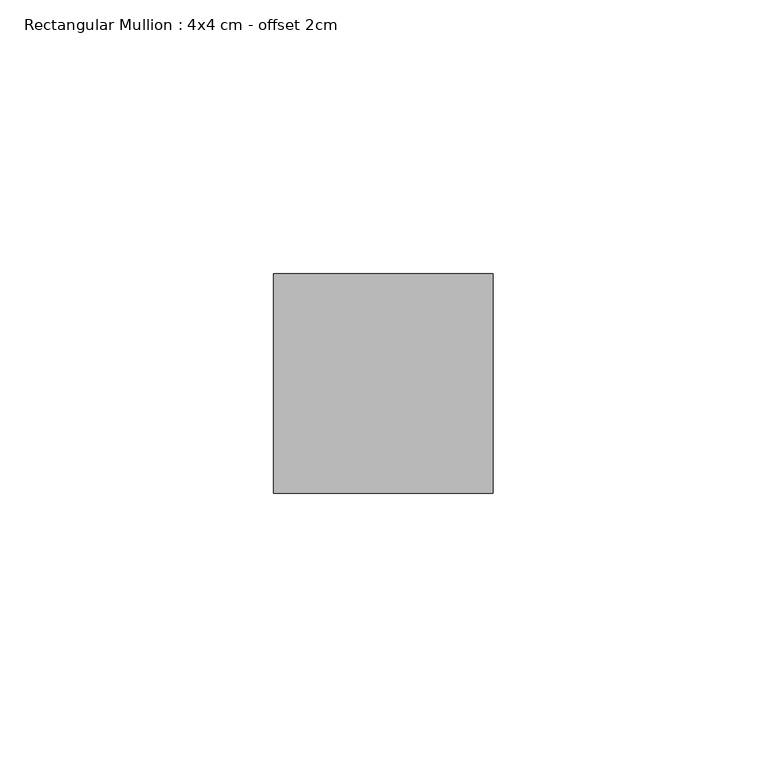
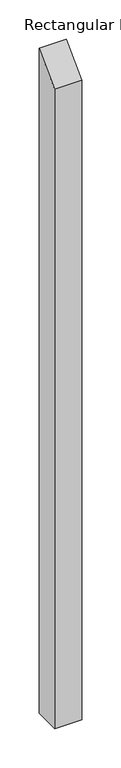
"""IFC4 building model written with IfcOpenShell, lengths in millimetres: member geometry, Rectangular Mullion : 4x4 cm - offset 2cm."""

import ifcopenshell
import ifcopenshell.guid

model = None  # the IFC model being written
_history = None  # IfcOwnerHistory: only IFC2X3 demands one
_inside = {}  # id of a spatial element -> (the spatial element, [elements in it])
_under = {}  # id of a project, library or spatial element -> (it, [spatial elements below it])
_declared = {}  # id of a project -> (the project, [libraries it declares])
_typed = {}  # id of a type object -> (the type object, [elements of that type])
_made_of = {}  # id of a material, layer set ... -> (it, [elements and type objects made of it])


def new_model(schema):
    """Start an empty IFC model of exactly this schema.

    Asked for "IFC4X3", IfcOpenShell would pick the latest addendum, in which some entities
    have other attributes; the version numbers below select the first issue.
    IFC2X3 requires an IfcOwnerHistory on every rooted entity: one is made here for all.
    """
    global model, _history
    if schema == "IFC4X3":
        model = ifcopenshell.file(schema_version=(4, 3, 0, 0))
    else:
        model = ifcopenshell.file(schema=schema)
    _inside.clear()
    _under.clear()
    _declared.clear()
    _typed.clear()
    _made_of.clear()
    _history = None
    if model.schema == "IFC2X3":
        org = make("IfcOrganization", Name="unknown")
        user = make(
            "IfcPersonAndOrganization",
            ThePerson=make("IfcPerson", FamilyName="unknown"),
            TheOrganization=org,
        )
        app = make(
            "IfcApplication",
            ApplicationDeveloper=org,
            Version="unknown",
            ApplicationFullName="unknown",
            ApplicationIdentifier="unknown",
        )
        _history = make(
            "IfcOwnerHistory",
            OwningUser=user,
            OwningApplication=app,
            ChangeAction="ADDED",
            CreationDate=0,
        )
    return model


def make(cls, **values):
    """One entity of the class cls with the attributes given. An attribute that is None is left unset."""
    return model.create_entity(
        cls, **{name: value for name, value in values.items() if value is not None}
    )


def rooted(cls, **values):
    """An entity with a GlobalId (a new one), such as an element, a storey or a relation."""
    return make(cls, GlobalId=ifcopenshell.guid.new(), OwnerHistory=_history, **values)


def si_unit(unit_type, name, prefix=None):
    """IfcSIUnit, for example si_unit("LENGTHUNIT", "METRE", prefix="MILLI")."""
    return make("IfcSIUnit", UnitType=unit_type, Prefix=prefix, Name=name)


def assignment(units):
    """IfcUnitAssignment: the units of a project."""
    return None if units is None else make("IfcUnitAssignment", Units=units)


def point(xyz):
    """IfcCartesianPoint."""
    return None if xyz is None else make("IfcCartesianPoint", Coordinates=xyz)


def direction(xyz):
    """IfcDirection."""
    return None if xyz is None else make("IfcDirection", DirectionRatios=xyz)


def frame(location, z_axis=None, x_axis=None):
    """IfcAxis2Placement3D, a coordinate frame: its origin and axes. An axis left out is left unset."""
    return make(
        "IfcAxis2Placement3D",
        Location=point(location),
        Axis=direction(z_axis),
        RefDirection=direction(x_axis),
    )


def origin():
    """The frame at (0, 0, 0) with its axes left unset."""
    return frame((0.0, 0.0, 0.0))


def place(relative_to, where):
    """IfcLocalPlacement: puts the frame where relative to a parent placement (None: the world)."""
    return make(
        "IfcLocalPlacement", PlacementRelTo=relative_to, RelativePlacement=where
    )


def context(
    kind, dimensions, precision=None, world=None, true_north=None, identifier=None
):
    """IfcGeometricRepresentationContext, for example the 3D "Model" context."""
    return make(
        "IfcGeometricRepresentationContext",
        ContextIdentifier=identifier,
        ContextType=kind,
        CoordinateSpaceDimension=dimensions,
        Precision=precision,
        WorldCoordinateSystem=world,
        TrueNorth=true_north,
    )


def project(units=None, contexts=None):
    """IfcProject with its units and contexts."""
    return rooted(
        "IfcProject",
        Name="project",
        RepresentationContexts=contexts,
        UnitsInContext=assignment(units),
    )


def spatial(cls, under=None, at=None, **own):
    """A site, building, storey or space (cls), placed at a placement, below another one or the project."""
    s = rooted(cls, ObjectPlacement=at, **own)
    if under is not None:
        _under.setdefault(under.id(), (under, []))[1].append(s)
    return s


def polyline(points):
    """IfcPolyline through the points."""
    return make("IfcPolyline", Points=[point(p) for p in points])


def outline(outer, holes=None, kind="AREA"):
    """IfcArbitraryClosedProfileDef: a profile drawn as a closed curve; with holes, ...WithVoids."""
    if holes is None:
        return make("IfcArbitraryClosedProfileDef", ProfileType=kind, OuterCurve=outer)
    return make(
        "IfcArbitraryProfileDefWithVoids",
        ProfileType=kind,
        OuterCurve=outer,
        InnerCurves=holes,
    )


def extrude(swept, where, along, depth):
    """IfcExtrudedAreaSolid: the profile swept, set in the frame where, extruded along a direction by depth."""
    return make(
        "IfcExtrudedAreaSolid",
        SweptArea=swept,
        Position=where,
        ExtrudedDirection=direction(along),
        Depth=depth,
    )


def shape(context_of_items, identifier, shape_type, items):
    """IfcShapeRepresentation: the items that make up one representation, for example the "Body"."""
    return make(
        "IfcShapeRepresentation",
        ContextOfItems=context_of_items,
        RepresentationIdentifier=identifier,
        RepresentationType=shape_type,
        Items=items,
    )


def source(mapping_origin, context_of_items, identifier, shape_type, items):
    """IfcRepresentationMap: a shape defined once, which mapped items show again and again."""
    return make(
        "IfcRepresentationMap",
        MappingOrigin=mapping_origin,
        MappedRepresentation=shape(context_of_items, identifier, shape_type, items),
    )


def transform(
    local_origin,
    x_axis=None,
    y_axis=None,
    z_axis=None,
    scale=None,
    scale2=None,
    scale3=None,
    uniform=True,
):
    """IfcCartesianTransformationOperator3D, or its non-uniform kind. x_axis, y_axis, z_axis: its Axis1, 2, 3."""
    if uniform:
        return make(
            "IfcCartesianTransformationOperator3D",
            Axis1=direction(x_axis),
            Axis2=direction(y_axis),
            LocalOrigin=point(local_origin),
            Scale=scale,
            Axis3=direction(z_axis),
        )
    return make(
        "IfcCartesianTransformationOperator3DnonUniform",
        Axis1=direction(x_axis),
        Axis2=direction(y_axis),
        LocalOrigin=point(local_origin),
        Scale=scale,
        Axis3=direction(z_axis),
        Scale2=scale2,
        Scale3=scale3,
    )


def mapped(mapping_source, mapping_target):
    """IfcMappedItem: shows the shape of a source again, moved by a transform."""
    return make(
        "IfcMappedItem", MappingSource=mapping_source, MappingTarget=mapping_target
    )


def made_of(thing, what):
    """Note that an element or type object is made of a material, layer set ...; save() writes the relation."""
    if what is not None:
        _made_of.setdefault(what.id(), (what, []))[1].append(thing)
    return thing


def element(
    cls,
    number,
    at=None,
    inside=None,
    cuts=None,
    type_object=None,
    material=None,
    context=None,
    identifier="Body",
    shape_type=None,
    held_by="IfcProductDefinitionShape",
    body=None,
    shapes=None,
    **own,
):
    """One element of the class cls, such as IfcWall. Its Tag is "e" and its number.

    at: its placement. inside: the storey or other place that contains it. cuts: it is an
    opening in that element (IfcRelVoidsElement). A single representation is given by context,
    identifier, shape_type and body (its items); several are given by shapes. held_by: the class
    of the entity that holds the representations. save() writes the other relations.
    """
    e = rooted(cls, Tag="e%d" % number, ObjectPlacement=at, **own)
    if body is not None:
        shapes = [shape(context, identifier, shape_type, body)]
    if shapes is not None:
        e.Representation = make(held_by, Representations=shapes)
    if inside is not None:
        _inside.setdefault(inside.id(), (inside, []))[1].append(e)
    if cuts is not None:
        rooted(
            "IfcRelVoidsElement", RelatingBuildingElement=cuts, RelatedOpeningElement=e
        )
    if type_object is not None:
        _typed.setdefault(type_object.id(), (type_object, []))[1].append(e)
    return made_of(e, material)


def aggregate(whole, parts):
    """IfcRelAggregates: a whole, such as a stair, and the parts it consists of."""
    return rooted("IfcRelAggregates", RelatingObject=whole, RelatedObjects=parts)


def save(model, path):
    """Write the relations noted so far, then the file.

    IfcRelAggregates (storeys below a building ...), IfcRelContainedInSpatialStructure (elements
    in a storey), IfcRelDefinesByType, IfcRelAssociatesMaterial and IfcRelDeclares: one each for
    every whole, place, type object, material and project.
    """
    for whole, parts in _under.values():
        aggregate(whole, parts)
    for where, things in _inside.values():
        rooted(
            "IfcRelContainedInSpatialStructure",
            RelatedElements=things,
            RelatingStructure=where,
        )
    for kind, things in _typed.values():
        rooted("IfcRelDefinesByType", RelatedObjects=things, RelatingType=kind)
    for what, things in _made_of.values():
        rooted("IfcRelAssociatesMaterial", RelatedObjects=things, RelatingMaterial=what)
    for by, libraries in _declared.values():
        rooted("IfcRelDeclares", RelatingContext=by, RelatedDefinitions=libraries)
    model.write(path)


def rectangular_mullion_4x4_cm_offset_2cm_a55c69bb(model_context):
    return source(origin(), model_context, "Body", "SweptSolid", [
        extrude(outline(polyline([(0.0, 0.0), (40.0, 40.0), (40.0, -1000.0000003), (0.0, -1000.0000003), (0.0, 0.0)])), frame((-40.0, 0.0, 0.0), z_axis=(1.0, 0.0, 0.0), x_axis=(0.0, 1.0, 0.0)), (0.0, 0.0, 1.0), 40.0),
    ])


if __name__ == "__main__":
    model = new_model("IFC4")
    model_context = context("Model", 3, world=origin())
    ifc_project = project(units=[si_unit("LENGTHUNIT", "METRE", prefix="MILLI")], contexts=[model_context])
    site = spatial("IfcSite", under=ifc_project)
    building = spatial("IfcBuilding", under=site)
    placement = place(None, origin())
    rectangular_mullion_4x4_cm_offset_2cm_shape = rectangular_mullion_4x4_cm_offset_2cm_a55c69bb(model_context)
    element("IfcMember", 1, ObjectType="Rectangular Mullion : 4x4 cm - offset 2cm", at=placement, inside=building, context=model_context, shape_type="MappedRepresentation", body=[
        mapped(rectangular_mullion_4x4_cm_offset_2cm_shape, transform((0.0, 0.0, 0.0), x_axis=(1.0, 0.0, 0.0), y_axis=(0.0, 1.0, 0.0), z_axis=(0.0, 0.0, 1.0))),
    ])
    save(model, "model.ifc")
